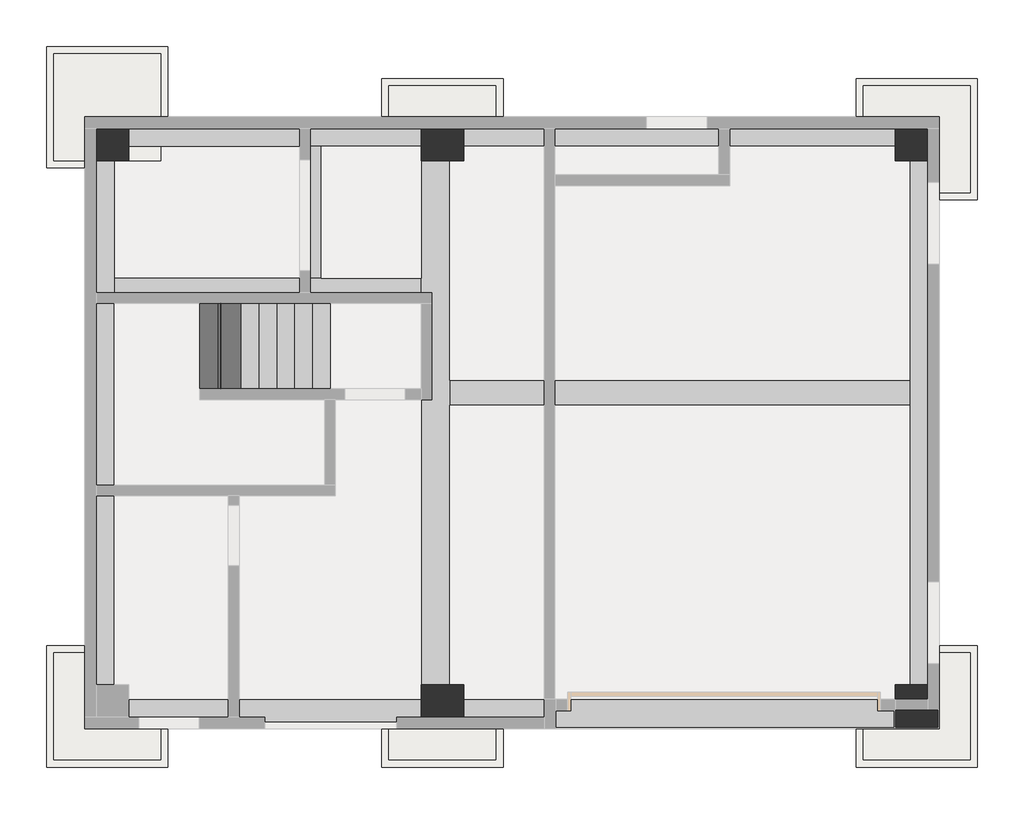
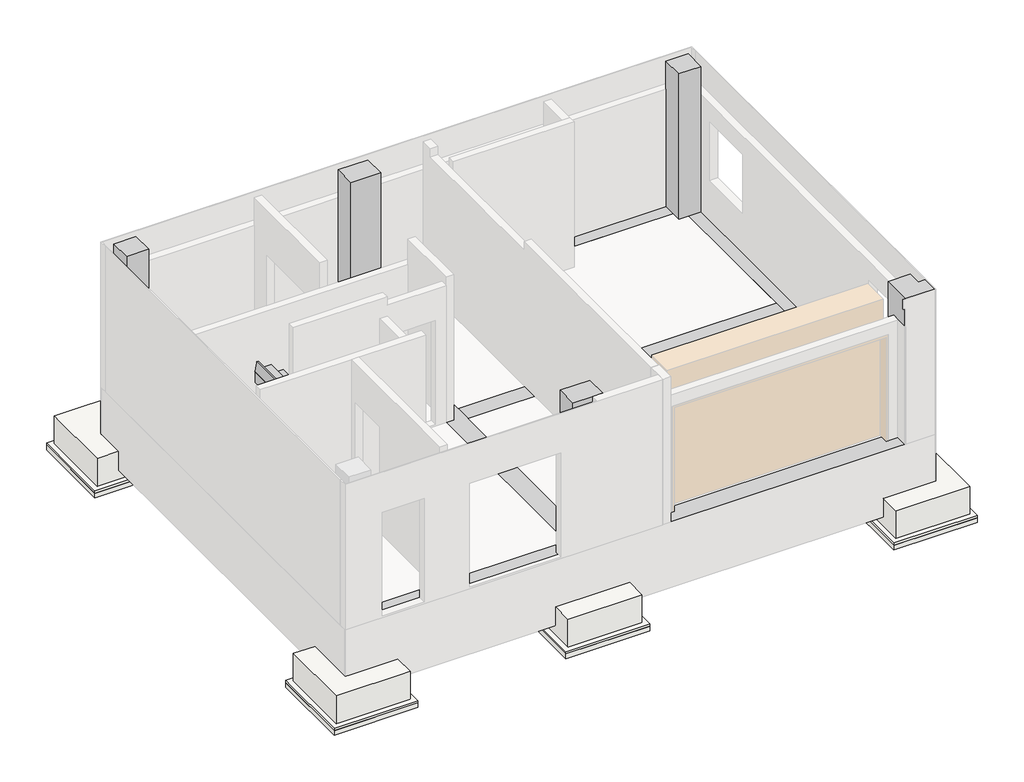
# One storey, part 2 of 2: 8 beams, 6 slabs, 5 columns, 1 stair flight.
"""IFC4 building model written with IfcOpenShell, lengths in millimetres."""

from ifc_helpers import new_model, si_unit, frame, origin, place, context, project, spatial, polyline, outline, extrude, faceted_brep, element, save

model = new_model("IFC4")

# Units and contexts
model_context = context("Model", 3, world=origin())
ifc_project = project(units=[si_unit("LENGTHUNIT", "METRE", prefix="MILLI")], contexts=[model_context])

# Site, building, storey
site = spatial("IfcSite", under=ifc_project)
building = spatial("IfcBuilding", under=site)
storey = spatial("IfcBuildingStorey", under=building, Name="GL＝1SL", Elevation=0.0)

# Beams
placement = place(None, origin())
element("IfcBeam", 1, ObjectType="コンクリート-長方形梁 : B1-350x550", at=placement, inside=storey, context=model_context, shape_type="Brep", body=[
    faceted_brep([(-3381.7658988, 1298.6001516, 0.0), (-3381.7658988, 948.6001516, 0.0), (918.2341012, 948.6001516, 0.0), (918.2341012, 1298.6001516, 0.0), (-481.7658988, 1298.6001516, 0.0), (-781.7658988, 1298.6001516, 0.0), (-3381.7658988, 948.6001516, -180.0), (-3381.7658988, 948.6001516, -550.0), (918.2341012, 948.6001516, -550.0), (918.2341012, 948.6001516, -180.0), (-3381.7658988, 1148.6001516, -550.0), (-3381.7658988, 1298.6001516, -550.0), (-631.7658988, 1298.6001516, -550.0), (918.2341012, 1298.6001516, -550.0)], [[[0, 1, 2, 3, 4, 5]], [[1, 6, 7, 8, 9, 2]], [[7, 10, 11, 12, 13, 8]], [[11, 0, 5, 4, 3, 13, 12]], [[1, 0, 11, 10, 7, 6]], [[3, 2, 9, 8, 13]]]),
])
element("IfcBeam", 2, ObjectType="コンクリート-長方形梁 : B1-350x550", at=placement, inside=storey, context=model_context, shape_type="SweptSolid", body=[
    extrude(outline(polyline([(7768.2341012, -131.3998484), (7768.2341012, -481.3998484), (1318.2341012, -481.3998484), (1318.2341012, -131.3998484), (7768.2341012, -131.3998484)])), frame((0.0, 0.0, -550.0), z_axis=(0.0, 0.0, 1.0), x_axis=(1.0, 0.0, 0.0)), (0.0, 0.0, 1.0), 550.0),
])
element("IfcBeam", 3, ObjectType="コンクリート-長方形梁 : B2-300x500", at=placement, inside=storey, context=model_context, shape_type="SweptSolid", body=[
    extrude(outline(polyline([(-781.7658988, 3148.6001516), (-481.7658988, 3148.6001516), (-481.7658988, 1298.6001516), (-781.7658988, 1298.6001516), (-781.7658988, 3148.6001516)])), frame((0.0, 0.0, -500.0), z_axis=(0.0, 0.0, 1.0), x_axis=(1.0, 0.0, 0.0)), (0.0, 0.0, 1.0), 500.0),
])
element("IfcBeam", 4, ObjectType="コンクリート-長方形梁 : G0-400x1400", at=placement, inside=storey, context=model_context, shape_type="Brep", body=[
    faceted_brep([(8168.2341012, 3148.6001516, 0.0), (8168.2341012, 3548.6001516, 0.0), (-3781.7658988, 3548.6001516, 0.0), (-3781.7658988, 3148.6001516, 0.0), (-3381.7658988, 3148.6001516, 0.0), (-781.7658988, 3148.6001516, 0.0), (-481.7658988, 3148.6001516, 0.0), (918.2341012, 3148.6001516, 0.0), (1318.2341012, 3148.6001516, 0.0), (7768.2341012, 3148.6001516, 0.0), (-3781.7658988, 3148.6001516, -1000.0), (-3381.7658988, 3148.6001516, -1000.0), (-2731.7658988, 3148.6001516, -1000.0), (-2731.7658988, 3148.6001516, -1400.0), (-781.7658988, 3148.6001516, -1400.0), (468.2341012, 3148.6001516, -1400.0), (468.2341012, 3148.6001516, -1000.0), (918.2341012, 3148.6001516, -1000.0), (1318.2341012, 3148.6001516, -1000.0), (1968.2341012, 3148.6001516, -1000.0), (1968.2341012, 3148.6001516, -1400.0), (7118.2341012, 3148.6001516, -1400.0), (7118.2341012, 3148.6001516, -1000.0), (7768.2341012, 3148.6001516, -1000.0), (8168.2341012, 3148.6001516, -1000.0), (1968.2341012, 3548.6001516, -1400.0), (7118.2341012, 3548.6001516, -1400.0), (-2731.7658988, 3548.6001516, -1000.0), (-3781.7658988, 3548.6001516, -1000.0), (8168.2341012, 3548.6001516, -1000.0), (7118.2341012, 3548.6001516, -1000.0), (1968.2341012, 3548.6001516, -1000.0), (468.2341012, 3548.6001516, -1000.0), (468.2341012, 3548.6001516, -1400.0), (-2731.7658988, 3548.6001516, -1400.0)], [[[0, 1, 2, 3, 4, 5, 6, 7, 8, 9]], [[10, 11, 12, 13, 14, 15, 16, 17, 18, 19, 20, 21, 22, 23, 24, 0, 9, 8, 7, 6, 5, 4, 3]], [[20, 25, 26, 21]], [[27, 28, 2, 1, 29, 30, 26, 25, 31, 32, 33, 34]], [[27, 12, 11, 10, 28]], [[12, 27, 34, 13]], [[31, 19, 18, 17, 16, 32]], [[32, 16, 15, 33]], [[19, 31, 25, 20]], [[13, 34, 33, 15, 14]], [[22, 30, 29, 24, 23]], [[30, 22, 21, 26]], [[1, 0, 24, 29]], [[3, 2, 28, 10]]]),
])
element("IfcBeam", 5, ObjectType="コンクリート-長方形梁 : G0-400x1400", at=placement, inside=storey, context=model_context, shape_type="Brep", body=[
    faceted_brep([(8168.2341012, 3148.6001516, 0.0), (7768.2341012, 3148.6001516, 0.0), (7768.2341012, -131.3998484, 0.0), (7768.2341012, -481.3998484, 0.0), (7768.2341012, -4601.3998484, 0.0), (7768.2341012, -5001.3998484, 0.0), (8168.2341012, -5001.3998484, 0.0), (7768.2341012, 3148.6001516, -180.0), (7768.2341012, 3148.6001516, -1000.0), (7768.2341012, 2498.6001516, -1000.0), (7768.2341012, 2498.6001516, -1400.0), (7768.2341012, -3951.3998484, -1400.0), (7768.2341012, -3951.3998484, -1000.0), (7768.2341012, -4601.3998484, -1000.0), (7768.2341012, -5001.3998484, -1000.0), (8168.2341012, 2498.6001516, -1400.0), (8168.2341012, -3951.3998484, -1400.0), (8168.2341012, 3148.6001516, -1000.0), (8168.2341012, -5001.3998484, -1000.0), (8168.2341012, -3951.3998484, -1000.0), (8168.2341012, 2498.6001516, -1000.0)], [[[0, 1, 2, 3, 4, 5, 6]], [[1, 7, 8, 9, 10, 11, 12, 13, 14, 5, 4, 3, 2]], [[10, 15, 16, 11]], [[17, 0, 6, 18, 19, 16, 15, 20]], [[1, 0, 17, 8, 7]], [[20, 9, 8, 17]], [[9, 20, 15, 10]], [[12, 19, 18, 14, 13]], [[19, 12, 11, 16]], [[6, 5, 14, 18]]]),
])
element("IfcBeam", 6, ObjectType="コンクリート-長方形梁 : G0-400x1400", at=placement, inside=storey, context=model_context, shape_type="Brep", body=[
    faceted_brep([(7768.2341012, -5001.3998484, 0.0), (7768.2341012, -4601.3998484, 0.0), (1318.2341012, -4601.3998484, 0.0), (918.2341012, -4601.3998484, 0.0), (-3381.7658988, -4601.3998484, 0.0), (-3781.7658988, -4601.3998484, 0.0), (-3781.7658988, -5001.3998484, 0.0), (7768.2341012, -4601.3998484, -1000.0), (7118.2341012, -4601.3998484, -1000.0), (7118.2341012, -4601.3998484, -1400.0), (1968.2341012, -4601.3998484, -1400.0), (1968.2341012, -4601.3998484, -1000.0), (1318.2341012, -4601.3998484, -1000.0), (918.2341012, -4601.3998484, -1000.0), (468.2341012, -4601.3998484, -1000.0), (468.2341012, -4601.3998484, -1400.0), (-2731.7658988, -4601.3998484, -1400.0), (-2731.7658988, -4601.3998484, -1000.0), (-3381.7658988, -4601.3998484, -1000.0), (-3781.7658988, -4601.3998484, -1000.0), (468.2341012, -5001.3998484, -1400.0), (-2731.7658988, -5001.3998484, -1400.0), (7768.2341012, -5001.3998484, -1000.0), (-3781.7658988, -5001.3998484, -1000.0), (-2731.7658988, -5001.3998484, -1000.0), (468.2341012, -5001.3998484, -1000.0), (1968.2341012, -5001.3998484, -1000.0), (1968.2341012, -5001.3998484, -1400.0), (7118.2341012, -5001.3998484, -1400.0), (7118.2341012, -5001.3998484, -1000.0)], [[[0, 1, 2, 3, 4, 5, 6]], [[1, 7, 8, 9, 10, 11, 12, 13, 14, 15, 16, 17, 18, 19, 5, 4, 3, 2]], [[15, 20, 21, 16]], [[22, 0, 6, 23, 24, 21, 20, 25, 26, 27, 28, 29]], [[1, 0, 22, 7]], [[29, 8, 7, 22]], [[8, 29, 28, 9]], [[11, 26, 25, 14, 13, 12]], [[14, 25, 20, 15]], [[26, 11, 10, 27]], [[9, 28, 27, 10]], [[17, 24, 23, 19, 18]], [[24, 17, 16, 21]], [[6, 5, 19, 23]]]),
])
element("IfcBeam", 7, ObjectType="コンクリート-長方形梁 : G0-400x1400", at=placement, inside=storey, context=model_context, shape_type="Brep", body=[
    faceted_brep([(-3381.7658988, 3148.6001516, 0.0), (-3781.7658988, 3148.6001516, 0.0), (-3781.7658988, -4601.3998484, 0.0), (-3381.7658988, -4601.3998484, 0.0), (-3381.7658988, 948.6001516, 0.0), (-3381.7658988, 1298.6001516, 0.0), (-3381.7658988, 2948.6001516, -1400.0), (-3381.7658988, 2948.6001516, -1000.0), (-3381.7658988, 3148.6001516, -1000.0), (-3381.7658988, -4601.3998484, -180.0), (-3381.7658988, -4601.3998484, -1000.0), (-3381.7658988, -3951.3998484, -1000.0), (-3381.7658988, -3951.3998484, -1400.0), (-3781.7658988, 2948.6001516, -1400.0), (-3781.7658988, -3951.3998484, -1400.0), (-3781.7658988, 2948.6001516, -1000.0), (-3781.7658988, -3951.3998484, -1000.0), (-3781.7658988, -4601.3998484, -1000.0), (-3781.7658988, 3148.6001516, -1000.0)], [[[0, 1, 2, 3, 4, 5]], [[6, 7, 8, 0, 5, 4, 3, 9, 10, 11, 12]], [[13, 6, 12, 14]], [[15, 13, 14, 16, 17, 2, 1, 18]], [[7, 15, 18, 8]], [[7, 6, 13, 15]], [[16, 11, 10, 17]], [[12, 11, 16, 14]], [[1, 0, 8, 18]], [[3, 2, 17, 10, 9]]]),
])
element("IfcBeam", 8, ObjectType="コンクリート-長方形梁 : G0-400x1400", at=placement, inside=storey, context=model_context, shape_type="Brep", body=[
    faceted_brep([(1318.2341012, 3148.6001516, 0.0), (918.2341012, 3148.6001516, 0.0), (918.2341012, 1298.6001516, 0.0), (918.2341012, 948.6001516, 0.0), (918.2341012, -4601.3998484, 0.0), (1318.2341012, -4601.3998484, 0.0), (1318.2341012, -481.3998484, 0.0), (1318.2341012, -131.3998484, 0.0), (1318.2341012, -4601.3998484, -1000.0), (1318.2341012, -3951.3998484, -1000.0), (1318.2341012, -3951.3998484, -1400.0), (1318.2341012, 2498.6001516, -1400.0), (1318.2341012, 2498.6001516, -1000.0), (1318.2341012, 3148.6001516, -1000.0), (1318.2341012, 3148.6001516, -180.0), (918.2341012, 2498.6001516, -1400.0), (918.2341012, -3951.3998484, -1400.0), (918.2341012, 3148.6001516, -1000.0), (918.2341012, 2498.6001516, -1000.0), (918.2341012, -3951.3998484, -1000.0), (918.2341012, -4601.3998484, -1000.0), (918.2341012, -4601.3998484, -180.0)], [[[0, 1, 2, 3, 4, 5, 6, 7]], [[0, 7, 6, 5, 8, 9, 10, 11, 12, 13, 14]], [[15, 11, 10, 16]], [[4, 3, 2, 1, 17, 18, 15, 16, 19, 20, 21]], [[1, 0, 14, 13, 17]], [[5, 4, 21, 20, 8]], [[12, 18, 17, 13]], [[18, 12, 11, 15]], [[19, 9, 8, 20]], [[9, 19, 16, 10]]]),
])

# Columns
element("IfcColumn", 9, ObjectType="角柱 : 600 x 600mm", at=placement, inside=storey, context=model_context, shape_type="Brep", body=[
    faceted_brep([(1518.2341012, -4401.3998484, 3120.0), (918.2341012, -4401.3998484, 3120.0), (918.2341012, -4851.3998484, 3120.0), (1318.2341012, -4851.3998484, 3120.0), (1518.2341012, -4851.3998484, 3120.0), (1518.2341012, -4401.3998484, -1000.0), (1518.2341012, -5001.3998484, -1000.0), (918.2341012, -5001.3998484, -1000.0), (918.2341012, -4401.3998484, -1000.0), (918.2341012, -5001.3998484, 0.0), (918.2341012, -4851.3998484, 0.0), (1518.2341012, -5001.3998484, 0.0), (1518.2341012, -4851.3998484, 0.0)], [[[0, 1, 2, 3, 4]], [[5, 6, 7, 8]], [[1, 0, 5, 8]], [[8, 7, 9, 10, 2, 1]], [[7, 6, 11, 9]], [[6, 5, 0, 4, 12, 11]], [[10, 12, 4, 3, 2]], [[12, 10, 9, 11]]]),
])
element("IfcColumn", 10, ObjectType="角柱 : 600 x 600mm", at=placement, inside=storey, context=model_context, shape_type="Brep", body=[
    faceted_brep([(7568.2341012, -4401.3998484, 3120.0), (7568.2341012, -5001.3998484, 3120.0), (8168.2341012, -5001.3998484, 3120.0), (8168.2341012, -4676.3998484, 3120.0), (8018.2341012, -4676.3998484, 3120.0), (8018.2341012, -4401.3998484, 3120.0), (8168.2341012, -4401.3998484, -1000.0), (8168.2341012, -5001.3998484, -1000.0), (7568.2341012, -5001.3998484, -1000.0), (7568.2341012, -4401.3998484, -1000.0), (8018.2341012, -4401.3998484, 0.0), (8168.2341012, -4401.3998484, 0.0), (7568.2341012, -4601.3998484, 0.0), (7568.2341012, -4601.3998484, 2520.0), (7568.2341012, -4751.3998484, 2520.0), (7568.2341012, -4751.3998484, 0.0), (8168.2341012, -5001.3998484, 0.0), (8168.2341012, -4751.3998484, 0.0), (8168.2341012, -4751.3998484, 2520.0), (8168.2341012, -4676.3998484, 2520.0), (8018.2341012, -4676.3998484, 2520.0), (8018.2341012, -4601.3998484, 2520.0), (8018.2341012, -4601.3998484, 0.0), (8018.2341012, -4751.3998484, 0.0), (8018.2341012, -4751.3998484, 2520.0)], [[[0, 1, 2, 3, 4, 5]], [[6, 7, 8, 9]], [[6, 9, 0, 5, 10, 11]], [[1, 0, 9, 8], [12, 13, 14, 15]], [[2, 1, 8, 7, 16]], [[7, 6, 11, 17, 18, 19, 3, 2, 16]], [[5, 4, 20, 21, 22, 10]], [[11, 10, 22, 23, 17]], [[12, 22, 21, 13]], [[14, 24, 23, 15]], [[22, 12, 15, 23]], [[13, 21, 20, 24, 14]], [[20, 4, 3, 19]], [[18, 24, 20, 19]], [[17, 23, 24, 18]]]),
])
element("IfcColumn", 11, ObjectType="角柱 : 600 x 600mm", at=placement, inside=storey, context=model_context, shape_type="Brep", body=[
    faceted_brep([(7568.2341012, 3398.6001516, 3120.0), (7568.2341012, 2948.6001516, 3120.0), (8018.2341012, 2948.6001516, 3120.0), (8018.2341012, 3398.6001516, 3120.0), (8168.2341012, 3548.6001516, -1000.0), (8168.2341012, 2948.6001516, -1000.0), (7568.2341012, 2948.6001516, -1000.0), (7568.2341012, 3548.6001516, -1000.0), (7568.2341012, 3548.6001516, 0.0), (8168.2341012, 3548.6001516, 0.0), (7568.2341012, 3398.6001516, 0.0), (8168.2341012, 2948.6001516, 0.0), (8018.2341012, 2948.6001516, 0.0), (8168.2341012, 3398.6001516, 0.0), (8018.2341012, 3398.6001516, 2520.0), (8018.2341012, 3398.6001516, 0.0)], [[[0, 1, 2, 3]], [[4, 5, 6, 7]], [[4, 7, 8, 9]], [[7, 6, 1, 0, 10, 8]], [[6, 5, 11, 12, 2, 1]], [[5, 4, 9, 13, 11]], [[10, 0, 3, 14, 15]], [[12, 15, 14, 3, 2]], [[9, 8, 10, 15, 13]], [[15, 12, 11, 13]]]),
])
element("IfcColumn", 12, ObjectType="角柱 : 600 x 600mm", at=placement, inside=storey, context=model_context, shape_type="SweptSolid", body=[
    extrude(outline(polyline([(3548.6001516, -1000.0), (2948.6001516, -1000.0), (2948.6001516, 3120.0), (3398.6001516, 3120.0), (3398.6001516, 0.0), (3548.6001516, 0.0), (3548.6001516, -1000.0)])), frame((918.2341012, 0.0, 0.0), z_axis=(1.0, 0.0, 0.0), x_axis=(0.0, 1.0, 0.0)), (0.0, 0.0, 1.0), 600.0),
])
element("IfcColumn", 13, ObjectType="角柱 : 600 x 600mm", at=placement, inside=storey, context=model_context, shape_type="Brep", body=[
    faceted_brep([(-3181.7658988, 2948.6001516, 3120.0), (-3181.7658988, 3398.6001516, 3120.0), (-3631.7658988, 3398.6001516, 3120.0), (-3631.7658988, 2948.6001516, 3120.0), (-3181.7658988, 3548.6001516, -1000.0), (-3181.7658988, 2948.6001516, -1000.0), (-3781.7658988, 2948.6001516, -1000.0), (-3781.7658988, 3548.6001516, -1000.0), (-3781.7658988, 3548.6001516, 0.0), (-3181.7658988, 3548.6001516, 0.0), (-3781.7658988, 2948.6001516, 0.0), (-3781.7658988, 3398.6001516, 0.0), (-3631.7658988, 2948.6001516, 0.0), (-3181.7658988, 3398.6001516, 0.0), (-3631.7658988, 3398.6001516, 0.0), (-3631.7658988, 3398.6001516, 2520.0)], [[[0, 1, 2, 3]], [[4, 5, 6, 7]], [[4, 7, 8, 9]], [[7, 6, 10, 11, 8]], [[6, 5, 0, 3, 12, 10]], [[5, 4, 9, 13, 1, 0]], [[1, 13, 14, 15, 2]], [[14, 12, 3, 2, 15]], [[9, 8, 11, 14, 13]], [[12, 14, 11, 10]]]),
])

# Slabs
element("IfcSlab", 14, ObjectType="基礎-長方形 : 1500ｘ1500ｘ600", at=placement, inside=storey, context=model_context, shape_type="SolidModel", body=[
    extrude(outline(polyline([(-2631.7658988, 4548.6001516), (-2631.7658988, 2848.6001516), (-4331.7658988, 2848.6001516), (-4331.7658988, 4548.6001516), (-2631.7658988, 4548.6001516)])), frame((0.0, 0.0, -1750.0), z_axis=(0.0, 0.0, 1.0), x_axis=(1.0, 0.0, 0.0)), (0.0, 0.0, 1.0), 100.0),
    extrude(outline(polyline([(-2631.7658988, 4548.6001516), (-2631.7658988, 2848.6001516), (-4331.7658988, 2848.6001516), (-4331.7658988, 4548.6001516), (-2631.7658988, 4548.6001516)])), frame((0.0, 0.0, -1650.0), z_axis=(0.0, 0.0, 1.0), x_axis=(1.0, 0.0, 0.0)), (0.0, 0.0, 1.0), 50.0),
    faceted_brep([(-2731.7658988, 4448.6001516, -1000.0), (-4231.7658988, 4448.6001516, -1000.0), (-4231.7658988, 2948.6001516, -1000.0), (-3781.7658988, 2948.6001516, -1000.0), (-3381.7658988, 2948.6001516, -1000.0), (-2731.7658988, 2948.6001516, -1000.0), (-2731.7658988, 3148.6001516, -1000.0), (-2731.7658988, 3548.6001516, -1000.0), (-2731.7658988, 4448.6001516, -1600.0), (-2731.7658988, 2948.6001516, -1600.0), (-4231.7658988, 2948.6001516, -1600.0), (-4231.7658988, 4448.6001516, -1600.0)], [[[0, 1, 2, 3, 4, 5, 6, 7]], [[8, 9, 10, 11]], [[1, 0, 8, 11]], [[2, 1, 11, 10]], [[5, 4, 3, 2, 10, 9]], [[0, 7, 6, 5, 9, 8]]]),
])
element("IfcSlab", 15, ObjectType="基礎-長方形 : 1500ｘ1500ｘ600", at=placement, inside=storey, context=model_context, shape_type="SolidModel", body=[
    extrude(outline(polyline([(2068.2341012, 4098.6001516), (2068.2341012, 2398.6001516), (368.2341012, 2398.6001516), (368.2341012, 4098.6001516), (2068.2341012, 4098.6001516)])), frame((0.0, 0.0, -1750.0), z_axis=(0.0, 0.0, 1.0), x_axis=(1.0, 0.0, 0.0)), (0.0, 0.0, 1.0), 100.0),
    extrude(outline(polyline([(2068.2341012, 4098.6001516), (2068.2341012, 2398.6001516), (368.2341012, 2398.6001516), (368.2341012, 4098.6001516), (2068.2341012, 4098.6001516)])), frame((0.0, 0.0, -1650.0), z_axis=(0.0, 0.0, 1.0), x_axis=(1.0, 0.0, 0.0)), (0.0, 0.0, 1.0), 50.0),
    faceted_brep([(1968.2341012, 3998.6001516, -1000.0), (468.2341012, 3998.6001516, -1000.0), (468.2341012, 3548.6001516, -1000.0), (468.2341012, 3148.6001516, -1000.0), (468.2341012, 2498.6001516, -1000.0), (918.2341012, 2498.6001516, -1000.0), (1318.2341012, 2498.6001516, -1000.0), (1968.2341012, 2498.6001516, -1000.0), (1968.2341012, 3148.6001516, -1000.0), (1968.2341012, 3548.6001516, -1000.0), (1968.2341012, 3998.6001516, -1600.0), (1968.2341012, 2498.6001516, -1600.0), (468.2341012, 2498.6001516, -1600.0), (468.2341012, 3998.6001516, -1600.0)], [[[0, 1, 2, 3, 4, 5, 6, 7, 8, 9]], [[10, 11, 12, 13]], [[1, 0, 10, 13]], [[4, 3, 2, 1, 13, 12]], [[7, 6, 5, 4, 12, 11]], [[0, 9, 8, 7, 11, 10]]]),
])
element("IfcSlab", 16, ObjectType="基礎-長方形 : 1500ｘ1500ｘ600", at=placement, inside=storey, context=model_context, shape_type="SolidModel", body=[
    extrude(outline(polyline([(8718.2341012, 4098.6001516), (8718.2341012, 2398.6001516), (7018.2341012, 2398.6001516), (7018.2341012, 4098.6001516), (8718.2341012, 4098.6001516)])), frame((0.0, 0.0, -1750.0), z_axis=(0.0, 0.0, 1.0), x_axis=(1.0, 0.0, 0.0)), (0.0, 0.0, 1.0), 100.0),
    extrude(outline(polyline([(8718.2341012, 4098.6001516), (8718.2341012, 2398.6001516), (7018.2341012, 2398.6001516), (7018.2341012, 4098.6001516), (8718.2341012, 4098.6001516)])), frame((0.0, 0.0, -1650.0), z_axis=(0.0, 0.0, 1.0), x_axis=(1.0, 0.0, 0.0)), (0.0, 0.0, 1.0), 50.0),
    faceted_brep([(8618.2341012, 3998.6001516, -1000.0), (7118.2341012, 3998.6001516, -1000.0), (7118.2341012, 3548.6001516, -1000.0), (7118.2341012, 3148.6001516, -1000.0), (7118.2341012, 2498.6001516, -1000.0), (7768.2341012, 2498.6001516, -1000.0), (8168.2341012, 2498.6001516, -1000.0), (8618.2341012, 2498.6001516, -1000.0), (8618.2341012, 3998.6001516, -1600.0), (8618.2341012, 2498.6001516, -1600.0), (7118.2341012, 2498.6001516, -1600.0), (7118.2341012, 3998.6001516, -1600.0)], [[[0, 1, 2, 3, 4, 5, 6, 7]], [[8, 9, 10, 11]], [[1, 0, 8, 11]], [[4, 3, 2, 1, 11, 10]], [[7, 6, 5, 4, 10, 9]], [[0, 7, 9, 8]]]),
])
element("IfcSlab", 17, ObjectType="基礎-長方形 : 1500ｘ1500ｘ600", at=placement, inside=storey, context=model_context, shape_type="SolidModel", body=[
    extrude(outline(polyline([(8718.2341012, -3851.3998484), (8718.2341012, -5551.3998484), (7018.2341012, -5551.3998484), (7018.2341012, -3851.3998484), (8718.2341012, -3851.3998484)])), frame((0.0, 0.0, -1750.0), z_axis=(0.0, 0.0, 1.0), x_axis=(1.0, 0.0, 0.0)), (0.0, 0.0, 1.0), 100.0),
    extrude(outline(polyline([(8718.2341012, -3851.3998484), (8718.2341012, -5551.3998484), (7018.2341012, -5551.3998484), (7018.2341012, -3851.3998484), (8718.2341012, -3851.3998484)])), frame((0.0, 0.0, -1650.0), z_axis=(0.0, 0.0, 1.0), x_axis=(1.0, 0.0, 0.0)), (0.0, 0.0, 1.0), 50.0),
    faceted_brep([(8618.2341012, -3951.3998484, -1000.0), (8168.2341012, -3951.3998484, -1000.0), (7768.2341012, -3951.3998484, -1000.0), (7118.2341012, -3951.3998484, -1000.0), (7118.2341012, -4601.3998484, -1000.0), (7118.2341012, -5001.3998484, -1000.0), (7118.2341012, -5451.3998484, -1000.0), (8618.2341012, -5451.3998484, -1000.0), (8618.2341012, -3951.3998484, -1600.0), (8618.2341012, -5451.3998484, -1600.0), (7118.2341012, -5451.3998484, -1600.0), (7118.2341012, -3951.3998484, -1600.0)], [[[0, 1, 2, 3, 4, 5, 6, 7]], [[8, 9, 10, 11]], [[3, 2, 1, 0, 8, 11]], [[6, 5, 4, 3, 11, 10]], [[7, 6, 10, 9]], [[0, 7, 9, 8]]]),
])
element("IfcSlab", 18, ObjectType="基礎-長方形 : 1500ｘ1500ｘ600", at=placement, inside=storey, context=model_context, shape_type="SolidModel", body=[
    extrude(outline(polyline([(2068.2341012, -3851.3998484), (2068.2341012, -5551.3998484), (368.2341012, -5551.3998484), (368.2341012, -3851.3998484), (2068.2341012, -3851.3998484)])), frame((0.0, 0.0, -1750.0), z_axis=(0.0, 0.0, 1.0), x_axis=(1.0, 0.0, 0.0)), (0.0, 0.0, 1.0), 100.0),
    extrude(outline(polyline([(2068.2341012, -3851.3998484), (2068.2341012, -5551.3998484), (368.2341012, -5551.3998484), (368.2341012, -3851.3998484), (2068.2341012, -3851.3998484)])), frame((0.0, 0.0, -1650.0), z_axis=(0.0, 0.0, 1.0), x_axis=(1.0, 0.0, 0.0)), (0.0, 0.0, 1.0), 50.0),
    faceted_brep([(1968.2341012, -3951.3998484, -1000.0), (1318.2341012, -3951.3998484, -1000.0), (918.2341012, -3951.3998484, -1000.0), (468.2341012, -3951.3998484, -1000.0), (468.2341012, -4601.3998484, -1000.0), (468.2341012, -5001.3998484, -1000.0), (468.2341012, -5451.3998484, -1000.0), (1968.2341012, -5451.3998484, -1000.0), (1968.2341012, -5001.3998484, -1000.0), (1968.2341012, -4601.3998484, -1000.0), (1968.2341012, -3951.3998484, -1600.0), (1968.2341012, -5451.3998484, -1600.0), (468.2341012, -5451.3998484, -1600.0), (468.2341012, -3951.3998484, -1600.0)], [[[0, 1, 2, 3, 4, 5, 6, 7, 8, 9]], [[10, 11, 12, 13]], [[3, 2, 1, 0, 10, 13]], [[6, 5, 4, 3, 13, 12]], [[7, 6, 12, 11]], [[0, 9, 8, 7, 11, 10]]]),
])
element("IfcSlab", 19, ObjectType="基礎-長方形 : 1500ｘ1500ｘ600", at=placement, inside=storey, context=model_context, shape_type="SolidModel", body=[
    extrude(outline(polyline([(-2631.7658988, -3851.3998484), (-2631.7658988, -5551.3998484), (-4331.7658988, -5551.3998484), (-4331.7658988, -3851.3998484), (-2631.7658988, -3851.3998484)])), frame((0.0, 0.0, -1750.0), z_axis=(0.0, 0.0, 1.0), x_axis=(1.0, 0.0, 0.0)), (0.0, 0.0, 1.0), 100.0),
    extrude(outline(polyline([(-2631.7658988, -3851.3998484), (-2631.7658988, -5551.3998484), (-4331.7658988, -5551.3998484), (-4331.7658988, -3851.3998484), (-2631.7658988, -3851.3998484)])), frame((0.0, 0.0, -1650.0), z_axis=(0.0, 0.0, 1.0), x_axis=(1.0, 0.0, 0.0)), (0.0, 0.0, 1.0), 50.0),
    faceted_brep([(-2731.7658988, -3951.3998484, -1000.0), (-3381.7658988, -3951.3998484, -1000.0), (-3781.7658988, -3951.3998484, -1000.0), (-4231.7658988, -3951.3998484, -1000.0), (-4231.7658988, -5451.3998484, -1000.0), (-2731.7658988, -5451.3998484, -1000.0), (-2731.7658988, -5001.3998484, -1000.0), (-2731.7658988, -4601.3998484, -1000.0), (-2731.7658988, -3951.3998484, -1600.0), (-2731.7658988, -5451.3998484, -1600.0), (-4231.7658988, -5451.3998484, -1600.0), (-4231.7658988, -3951.3998484, -1600.0)], [[[0, 1, 2, 3, 4, 5, 6, 7]], [[8, 9, 10, 11]], [[3, 2, 1, 0, 8, 11]], [[4, 3, 11, 10]], [[5, 4, 10, 9]], [[0, 7, 6, 5, 9, 8]]]),
])

# Stair flight
element("IfcStairFlight", 20, ObjectType="一体型の階段踏面", at=placement, inside=storey, context=model_context, shape_type="Brep", body=[
    faceted_brep([(-392.3252038, 948.6001516, 195.0), (-392.3252038, -251.3998484, 195.0), (-427.3252038, -251.3998484, 0.0), (-427.3252038, 948.6001516, 0.0), (-683.6072551, 948.6001516, 195.0), (-683.6072551, -251.3998484, 195.0), (-683.6072551, -251.3998484, 0.0), (-683.6072551, 948.6001516, 0.0), (-648.6072551, -251.3998484, 390.0), (-648.6072551, 948.6001516, 390.0), (-933.6072551, 948.6001516, 390.0), (-933.6072551, -251.3998484, 390.0), (-933.6072551, -251.3998484, 161.7191204), (-726.2750494, -251.3998484, 0.0), (-726.2750494, 948.6001516, 0.0), (-933.6072551, 948.6001516, 161.7191204), (-898.6072551, -251.3998484, 585.0), (-898.6072551, 948.6001516, 585.0), (-1183.6072551, 948.6001516, 585.0), (-1183.6072551, -251.3998484, 585.0), (-1183.6072551, -251.3998484, 356.7191204), (-1183.6072551, 948.6001516, 356.7191204), (-1148.6072551, -251.3998484, 780.0), (-1148.6072551, 948.6001516, 780.0), (-1433.6072551, 948.6001516, 780.0), (-1433.6072551, -251.3998484, 780.0), (-1433.6072551, -251.3998484, 551.7191204), (-1433.6072551, 948.6001516, 551.7191204), (-1398.6072551, -251.3998484, 975.0), (-1398.6072551, 948.6001516, 975.0), (-1683.6072551, 948.6001516, 975.0), (-1683.6072551, -251.3998484, 975.0), (-1683.6072551, -251.3998484, 746.7191204), (-1683.6072551, 948.6001516, 746.7191204), (-1648.6072551, -251.3998484, 1170.0), (-1648.6072551, 948.6001516, 1170.0), (-1933.6072551, 948.6001516, 1170.0), (-1933.6072551, -251.3998484, 1170.0), (-1933.6072551, -251.3998484, 941.7191204), (-1933.6072551, 948.6001516, 941.7191204), (-2183.6072551, -251.3998484, 1136.7191204), (-2183.6072551, 948.6001516, 1136.7191204), (-2106.7658988, 948.6001516, 1076.7828625), (-1898.6072551, -251.3998484, 1365.0), (-1898.6072551, 948.6001516, 1365.0), (-2106.7658988, 948.6001516, 1365.0), (-2183.6072551, 948.6001516, 1365.0), (-2183.6072551, -251.3998484, 1365.0)], [[[0, 1, 2, 3]], [[1, 0, 4, 5]], [[1, 5, 6, 2]], [[4, 0, 3, 7]], [[8, 9, 10, 11]], [[6, 5, 8, 11, 12, 13]], [[4, 7, 14, 15, 10, 9]], [[5, 4, 9, 8]], [[16, 17, 18, 19]], [[16, 19, 20, 12, 11]], [[18, 17, 10, 15, 21]], [[11, 10, 17, 16]], [[22, 23, 24, 25]], [[22, 25, 26, 20, 19]], [[24, 23, 18, 21, 27]], [[19, 18, 23, 22]], [[28, 29, 30, 31]], [[28, 31, 32, 26, 25]], [[30, 29, 24, 27, 33]], [[25, 24, 29, 28]], [[34, 35, 36, 37]], [[34, 37, 38, 32, 31]], [[36, 35, 30, 33, 39]], [[31, 30, 35, 34]], [[2, 6, 13, 14, 7, 3]], [[14, 13, 12, 20, 26, 32, 38, 40, 41, 42, 39, 33, 27, 21, 15]], [[43, 44, 45, 46, 47]], [[43, 47, 40, 38, 37]], [[45, 44, 36, 39, 42]], [[46, 45, 42, 41]], [[47, 46, 41, 40]], [[37, 36, 44, 43]]]),
    faceted_brep([(-641.7658988, 948.6001516, 230.0), (-648.0479501, 948.6001516, 195.0), (-648.0479501, -251.3998484, 195.0), (-641.7658988, -251.3998484, 230.0), (-356.7658988, -251.3998484, 230.0), (-356.7658988, 948.6001516, 230.0), (-363.0479501, 948.6001516, 195.0), (-363.0479501, -251.3998484, 195.0)], [[[0, 1, 2, 3]], [[3, 4, 5, 0]], [[2, 1, 6, 7]], [[4, 3, 2, 7]], [[0, 5, 6, 1]], [[5, 4, 7, 6]]]),
    faceted_brep([(-363.0479501, 948.6001516, 195.0), (-398.0479501, 948.6001516, 0.0), (-433.6072551, 948.6001516, 0.0), (-398.6072551, 948.6001516, 195.0), (-363.0479501, -251.3998484, 195.0), (-398.6072551, -251.3998484, 195.0), (-433.6072551, -251.3998484, 0.0), (-398.0479501, -251.3998484, 0.0)], [[[0, 1, 2, 3]], [[4, 5, 6, 7]], [[1, 0, 4, 7]], [[2, 1, 7, 6]], [[3, 2, 6, 5]], [[0, 3, 5, 4]]]),
    faceted_brep([(-613.0479501, 948.6001516, 390.0), (-648.0479501, 948.6001516, 195.0), (-683.6072551, 948.6001516, 195.0), (-648.6072551, 948.6001516, 390.0), (-613.0479501, -251.3998484, 390.0), (-648.6072551, -251.3998484, 390.0), (-683.6072551, -251.3998484, 195.0), (-648.0479501, -251.3998484, 195.0)], [[[0, 1, 2, 3]], [[4, 5, 6, 7]], [[1, 0, 4, 7]], [[2, 1, 7, 6]], [[3, 2, 6, 5]], [[0, 3, 5, 4]]]),
    faceted_brep([(-891.7658988, -251.3998484, 425.0), (-606.7658988, -251.3998484, 425.0), (-606.7658988, 948.6001516, 425.0), (-891.7658988, 948.6001516, 425.0), (-898.0479501, -251.3998484, 390.0), (-898.0479501, 948.6001516, 390.0), (-613.0479501, 948.6001516, 390.0), (-613.0479501, -251.3998484, 390.0)], [[[0, 1, 2, 3]], [[4, 5, 6, 7]], [[1, 0, 4, 7]], [[3, 2, 6, 5]], [[3, 5, 4, 0]], [[2, 1, 7, 6]]]),
    faceted_brep([(-863.0479501, 948.6001516, 585.0), (-898.0479501, 948.6001516, 390.0), (-933.6072551, 948.6001516, 390.0), (-898.6072551, 948.6001516, 585.0), (-863.0479501, -251.3998484, 585.0), (-898.6072551, -251.3998484, 585.0), (-933.6072551, -251.3998484, 390.0), (-898.0479501, -251.3998484, 390.0)], [[[0, 1, 2, 3]], [[4, 5, 6, 7]], [[1, 0, 4, 7]], [[2, 1, 7, 6]], [[3, 2, 6, 5]], [[0, 3, 5, 4]]]),
    faceted_brep([(-1141.7658988, -251.3998484, 620.0), (-856.7658988, -251.3998484, 620.0), (-856.7658988, 948.6001516, 620.0), (-1141.7658988, 948.6001516, 620.0), (-1148.0479501, -251.3998484, 585.0), (-1148.0479501, 948.6001516, 585.0), (-863.0479501, 948.6001516, 585.0), (-863.0479501, -251.3998484, 585.0)], [[[0, 1, 2, 3]], [[4, 5, 6, 7]], [[1, 0, 4, 7]], [[3, 2, 6, 5]], [[3, 5, 4, 0]], [[2, 1, 7, 6]]]),
    faceted_brep([(-1113.0479501, 948.6001516, 780.0), (-1148.0479501, 948.6001516, 585.0), (-1183.6072551, 948.6001516, 585.0), (-1148.6072551, 948.6001516, 780.0), (-1113.0479501, -251.3998484, 780.0), (-1148.6072551, -251.3998484, 780.0), (-1183.6072551, -251.3998484, 585.0), (-1148.0479501, -251.3998484, 585.0)], [[[0, 1, 2, 3]], [[4, 5, 6, 7]], [[1, 0, 4, 7]], [[2, 1, 7, 6]], [[3, 2, 6, 5]], [[0, 3, 5, 4]]]),
    faceted_brep([(-1391.7658988, -251.3998484, 815.0), (-1106.7658988, -251.3998484, 815.0), (-1106.7658988, 948.6001516, 815.0), (-1391.7658988, 948.6001516, 815.0), (-1398.0479501, -251.3998484, 780.0), (-1398.0479501, 948.6001516, 780.0), (-1113.0479501, 948.6001516, 780.0), (-1113.0479501, -251.3998484, 780.0)], [[[0, 1, 2, 3]], [[4, 5, 6, 7]], [[1, 0, 4, 7]], [[3, 2, 6, 5]], [[3, 5, 4, 0]], [[2, 1, 7, 6]]]),
    faceted_brep([(-1363.0479501, 948.6001516, 975.0), (-1398.0479501, 948.6001516, 780.0), (-1433.6072551, 948.6001516, 780.0), (-1398.6072551, 948.6001516, 975.0), (-1363.0479501, -251.3998484, 975.0), (-1398.6072551, -251.3998484, 975.0), (-1433.6072551, -251.3998484, 780.0), (-1398.0479501, -251.3998484, 780.0)], [[[0, 1, 2, 3]], [[4, 5, 6, 7]], [[1, 0, 4, 7]], [[2, 1, 7, 6]], [[3, 2, 6, 5]], [[0, 3, 5, 4]]]),
    faceted_brep([(-1641.7658988, -251.3998484, 1010.0), (-1356.7658988, -251.3998484, 1010.0), (-1356.7658988, 948.6001516, 1010.0), (-1641.7658988, 948.6001516, 1010.0), (-1648.0479501, -251.3998484, 975.0), (-1648.0479501, 948.6001516, 975.0), (-1363.0479501, 948.6001516, 975.0), (-1363.0479501, -251.3998484, 975.0)], [[[0, 1, 2, 3]], [[4, 5, 6, 7]], [[1, 0, 4, 7]], [[3, 2, 6, 5]], [[3, 5, 4, 0]], [[2, 1, 7, 6]]]),
    faceted_brep([(-1613.0479501, 948.6001516, 1170.0), (-1648.0479501, 948.6001516, 975.0), (-1683.6072551, 948.6001516, 975.0), (-1648.6072551, 948.6001516, 1170.0), (-1613.0479501, -251.3998484, 1170.0), (-1648.6072551, -251.3998484, 1170.0), (-1683.6072551, -251.3998484, 975.0), (-1648.0479501, -251.3998484, 975.0)], [[[0, 1, 2, 3]], [[4, 5, 6, 7]], [[1, 0, 4, 7]], [[2, 1, 7, 6]], [[3, 2, 6, 5]], [[0, 3, 5, 4]]]),
    faceted_brep([(-1891.7658988, -251.3998484, 1205.0), (-1606.7658988, -251.3998484, 1205.0), (-1606.7658988, 948.6001516, 1205.0), (-1891.7658988, 948.6001516, 1205.0), (-1898.0479501, -251.3998484, 1170.0), (-1898.0479501, 948.6001516, 1170.0), (-1613.0479501, 948.6001516, 1170.0), (-1613.0479501, -251.3998484, 1170.0)], [[[0, 1, 2, 3]], [[4, 5, 6, 7]], [[1, 0, 4, 7]], [[3, 2, 6, 5]], [[3, 5, 4, 0]], [[2, 1, 7, 6]]]),
    faceted_brep([(-2113.0479501, 948.6001516, 1560.0), (-2148.0479501, 948.6001516, 1365.0), (-2183.6072551, 948.6001516, 1365.0), (-2148.6072551, 948.6001516, 1560.0), (-2113.0479501, -251.3998484, 1560.0), (-2148.6072551, -251.3998484, 1560.0), (-2183.6072551, -251.3998484, 1365.0), (-2148.0479501, -251.3998484, 1365.0)], [[[0, 1, 2, 3]], [[4, 5, 6, 7]], [[1, 0, 4, 7]], [[2, 1, 7, 6]], [[3, 2, 6, 5]], [[0, 3, 5, 4]]]),
    faceted_brep([(-1863.0479501, 948.6001516, 1365.0), (-1898.0479501, 948.6001516, 1170.0), (-1933.6072551, 948.6001516, 1170.0), (-1898.6072551, 948.6001516, 1365.0), (-1863.0479501, -251.3998484, 1365.0), (-1898.6072551, -251.3998484, 1365.0), (-1933.6072551, -251.3998484, 1170.0), (-1898.0479501, -251.3998484, 1170.0)], [[[0, 1, 2, 3]], [[4, 5, 6, 7]], [[1, 0, 4, 7]], [[2, 1, 7, 6]], [[3, 2, 6, 5]], [[0, 3, 5, 4]]]),
    faceted_brep([(-2141.7658988, -251.3998484, 1400.0), (-2106.7658988, -251.3998484, 1400.0), (-1856.7658988, -251.3998484, 1400.0), (-1856.7658988, 948.6001516, 1400.0), (-2106.7658988, 948.6001516, 1400.0), (-2141.7658988, 948.6001516, 1400.0), (-2148.0479501, -251.3998484, 1365.0), (-2148.0479501, 948.6001516, 1365.0), (-2106.7658988, 948.6001516, 1365.0), (-1863.0479501, 948.6001516, 1365.0), (-1863.0479501, -251.3998484, 1365.0), (-2106.7658988, -251.3998484, 1365.0)], [[[0, 1, 2, 3, 4, 5]], [[6, 7, 8, 9, 10, 11]], [[1, 0, 6, 11]], [[4, 3, 9, 8]], [[5, 4, 8, 7]], [[5, 7, 6, 0]], [[3, 2, 10, 9]], [[2, 1, 11, 10]]]),
])

save(model, "model.ifc")
